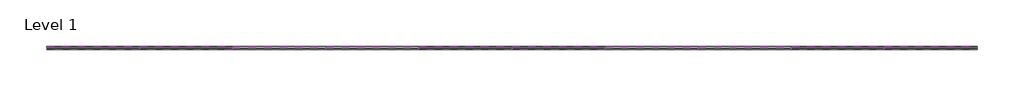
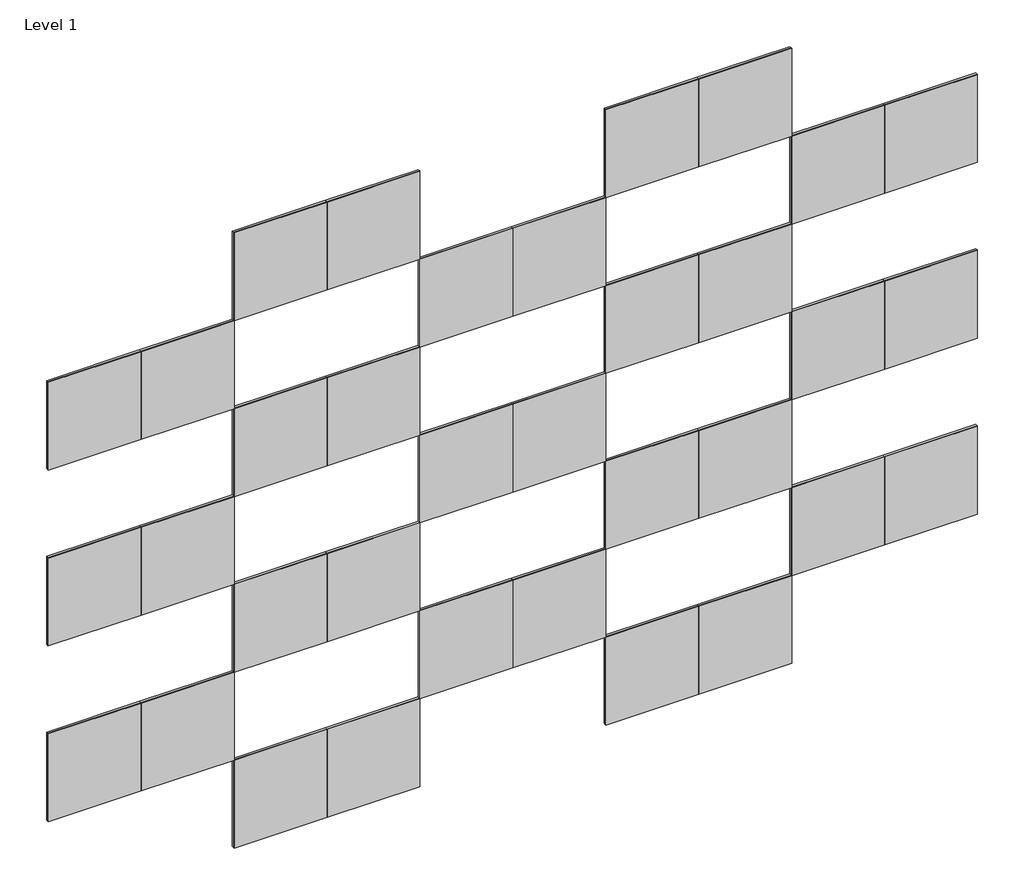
# One storey, incomplete: 34 proxies.
"""IFC4 building model written with IfcOpenShell, lengths in millimetres."""

from ifc_helpers import new_model, si_unit, origin, place, context, project, spatial, transform, mapped, element, save
from components import turn_c_flat_panel_6ed3f7a1

model = new_model("IFC4")

# Units and contexts
model_context = context("Model", 3, world=origin())
ifc_project = project(units=[si_unit("LENGTHUNIT", "METRE", prefix="MILLI")], contexts=[model_context])

# Site, building, storey
site = spatial("IfcSite", under=ifc_project)
building = spatial("IfcBuilding", under=site)
storey = spatial("IfcBuildingStorey", under=building, Name="Level 1", Elevation=0.0)

# Proxies
placement = place(None, origin())
turn_c_flat_panel_shape = turn_c_flat_panel_6ed3f7a1(model_context)
element("IfcBuildingElementProxy", 1, Name="FilzFelt_Turn : Turn C (Flat Panel)", ObjectType="FilzFelt_Turn : Turn C (Flat Panel)", at=placement, inside=storey, context=model_context, shape_type="MappedRepresentation", body=[
    mapped(turn_c_flat_panel_shape, transform((217.9908805, 2947.8458474, 2890.4), x_axis=(1.0, 0.0, 0.0), y_axis=(0.0, 0.0, 1.0), z_axis=(0.0, -1.0, 0.0))),
])
element("IfcBuildingElementProxy", 2, Name="FilzFelt_Turn : Turn C (Flat Panel)", ObjectType="FilzFelt_Turn : Turn C (Flat Panel)", at=placement, inside=storey, context=model_context, shape_type="MappedRepresentation", body=[
    mapped(turn_c_flat_panel_shape, transform((217.9908805, 2947.8458474, 2077.6), x_axis=(1.0, 0.0, 0.0), y_axis=(0.0, 0.0, 1.0), z_axis=(0.0, -1.0, 0.0))),
])
element("IfcBuildingElementProxy", 3, Name="FilzFelt_Turn : Turn C (Flat Panel)", ObjectType="FilzFelt_Turn : Turn C (Flat Panel)", at=placement, inside=storey, context=model_context, shape_type="MappedRepresentation", body=[
    mapped(turn_c_flat_panel_shape, transform((217.9908805, 2947.8458474, 1264.8), x_axis=(1.0, 0.0, 0.0), y_axis=(0.0, 0.0, 1.0), z_axis=(0.0, -1.0, 0.0))),
])
element("IfcBuildingElementProxy", 4, Name="FilzFelt_Turn : Turn C (Flat Panel)", ObjectType="FilzFelt_Turn : Turn C (Flat Panel)", at=placement, inside=storey, context=model_context, shape_type="MappedRepresentation", body=[
    mapped(turn_c_flat_panel_shape, transform((624.3908805, 2947.8458474, 2890.4), x_axis=(1.0, 0.0, 0.0), y_axis=(0.0, 0.0, 1.0), z_axis=(0.0, -1.0, 0.0))),
])
element("IfcBuildingElementProxy", 5, Name="FilzFelt_Turn : Turn C (Flat Panel)", ObjectType="FilzFelt_Turn : Turn C (Flat Panel)", at=placement, inside=storey, context=model_context, shape_type="MappedRepresentation", body=[
    mapped(turn_c_flat_panel_shape, transform((624.3908805, 2947.8458474, 2077.6), x_axis=(1.0, 0.0, 0.0), y_axis=(0.0, 0.0, 1.0), z_axis=(0.0, -1.0, 0.0))),
])
element("IfcBuildingElementProxy", 6, Name="FilzFelt_Turn : Turn C (Flat Panel)", ObjectType="FilzFelt_Turn : Turn C (Flat Panel)", at=placement, inside=storey, context=model_context, shape_type="MappedRepresentation", body=[
    mapped(turn_c_flat_panel_shape, transform((624.3908805, 2947.8458474, 1264.8), x_axis=(1.0, 0.0, 0.0), y_axis=(0.0, 0.0, 1.0), z_axis=(0.0, -1.0, 0.0))),
])
element("IfcBuildingElementProxy", 7, Name="FilzFelt_Turn : Turn C (Flat Panel)", ObjectType="FilzFelt_Turn : Turn C (Flat Panel)", at=placement, inside=storey, context=model_context, shape_type="MappedRepresentation", body=[
    mapped(turn_c_flat_panel_shape, transform((1030.7908805, 2947.8458474, 3296.8), x_axis=(1.0, 0.0, 0.0), y_axis=(0.0, 0.0, 1.0), z_axis=(0.0, -1.0, 0.0))),
])
element("IfcBuildingElementProxy", 8, Name="FilzFelt_Turn : Turn C (Flat Panel)", ObjectType="FilzFelt_Turn : Turn C (Flat Panel)", at=placement, inside=storey, context=model_context, shape_type="MappedRepresentation", body=[
    mapped(turn_c_flat_panel_shape, transform((1030.7908805, 2947.8458474, 2484.0), x_axis=(1.0, 0.0, 0.0), y_axis=(0.0, 0.0, 1.0), z_axis=(0.0, -1.0, 0.0))),
])
element("IfcBuildingElementProxy", 9, Name="FilzFelt_Turn : Turn C (Flat Panel)", ObjectType="FilzFelt_Turn : Turn C (Flat Panel)", at=placement, inside=storey, context=model_context, shape_type="MappedRepresentation", body=[
    mapped(turn_c_flat_panel_shape, transform((1030.7908805, 2947.8458474, 1671.2), x_axis=(1.0, 0.0, 0.0), y_axis=(0.0, 0.0, 1.0), z_axis=(0.0, -1.0, 0.0))),
])
element("IfcBuildingElementProxy", 10, Name="FilzFelt_Turn : Turn C (Flat Panel)", ObjectType="FilzFelt_Turn : Turn C (Flat Panel)", at=placement, inside=storey, context=model_context, shape_type="MappedRepresentation", body=[
    mapped(turn_c_flat_panel_shape, transform((1030.7908805, 2947.8458474, 858.4), x_axis=(1.0, 0.0, 0.0), y_axis=(0.0, 0.0, 1.0), z_axis=(0.0, -1.0, 0.0))),
])
element("IfcBuildingElementProxy", 11, Name="FilzFelt_Turn : Turn C (Flat Panel)", ObjectType="FilzFelt_Turn : Turn C (Flat Panel)", at=placement, inside=storey, context=model_context, shape_type="MappedRepresentation", body=[
    mapped(turn_c_flat_panel_shape, transform((1437.1908805, 2947.8458474, 3296.8), x_axis=(1.0, 0.0, 0.0), y_axis=(0.0, 0.0, 1.0), z_axis=(0.0, -1.0, 0.0))),
])
element("IfcBuildingElementProxy", 12, Name="FilzFelt_Turn : Turn C (Flat Panel)", ObjectType="FilzFelt_Turn : Turn C (Flat Panel)", at=placement, inside=storey, context=model_context, shape_type="MappedRepresentation", body=[
    mapped(turn_c_flat_panel_shape, transform((1437.1908805, 2947.8458474, 2484.0), x_axis=(1.0, 0.0, 0.0), y_axis=(0.0, 0.0, 1.0), z_axis=(0.0, -1.0, 0.0))),
])
element("IfcBuildingElementProxy", 13, Name="FilzFelt_Turn : Turn C (Flat Panel)", ObjectType="FilzFelt_Turn : Turn C (Flat Panel)", at=placement, inside=storey, context=model_context, shape_type="MappedRepresentation", body=[
    mapped(turn_c_flat_panel_shape, transform((1437.1908805, 2947.8458474, 1671.2), x_axis=(1.0, 0.0, 0.0), y_axis=(0.0, 0.0, 1.0), z_axis=(0.0, -1.0, 0.0))),
])
element("IfcBuildingElementProxy", 14, Name="FilzFelt_Turn : Turn C (Flat Panel)", ObjectType="FilzFelt_Turn : Turn C (Flat Panel)", at=placement, inside=storey, context=model_context, shape_type="MappedRepresentation", body=[
    mapped(turn_c_flat_panel_shape, transform((1437.1908805, 2947.8458474, 858.4), x_axis=(1.0, 0.0, 0.0), y_axis=(0.0, 0.0, 1.0), z_axis=(0.0, -1.0, 0.0))),
])
element("IfcBuildingElementProxy", 15, Name="FilzFelt_Turn : Turn C (Flat Panel)", ObjectType="FilzFelt_Turn : Turn C (Flat Panel)", at=placement, inside=storey, context=model_context, shape_type="MappedRepresentation", body=[
    mapped(turn_c_flat_panel_shape, transform((1843.5908805, 2947.8458474, 2890.4), x_axis=(1.0, 0.0, 0.0), y_axis=(0.0, 0.0, 1.0), z_axis=(0.0, -1.0, 0.0))),
])
element("IfcBuildingElementProxy", 16, Name="FilzFelt_Turn : Turn C (Flat Panel)", ObjectType="FilzFelt_Turn : Turn C (Flat Panel)", at=placement, inside=storey, context=model_context, shape_type="MappedRepresentation", body=[
    mapped(turn_c_flat_panel_shape, transform((1843.5908805, 2947.8458474, 2077.6), x_axis=(1.0, 0.0, 0.0), y_axis=(0.0, 0.0, 1.0), z_axis=(0.0, -1.0, 0.0))),
])
element("IfcBuildingElementProxy", 17, Name="FilzFelt_Turn : Turn C (Flat Panel)", ObjectType="FilzFelt_Turn : Turn C (Flat Panel)", at=placement, inside=storey, context=model_context, shape_type="MappedRepresentation", body=[
    mapped(turn_c_flat_panel_shape, transform((1843.5908805, 2947.8458474, 1264.8), x_axis=(1.0, 0.0, 0.0), y_axis=(0.0, 0.0, 1.0), z_axis=(0.0, -1.0, 0.0))),
])
element("IfcBuildingElementProxy", 18, Name="FilzFelt_Turn : Turn C (Flat Panel)", ObjectType="FilzFelt_Turn : Turn C (Flat Panel)", at=placement, inside=storey, context=model_context, shape_type="MappedRepresentation", body=[
    mapped(turn_c_flat_panel_shape, transform((2249.9908805, 2947.8458474, 2890.4), x_axis=(1.0, 0.0, 0.0), y_axis=(0.0, 0.0, 1.0), z_axis=(0.0, -1.0, 0.0))),
])
element("IfcBuildingElementProxy", 19, Name="FilzFelt_Turn : Turn C (Flat Panel)", ObjectType="FilzFelt_Turn : Turn C (Flat Panel)", at=placement, inside=storey, context=model_context, shape_type="MappedRepresentation", body=[
    mapped(turn_c_flat_panel_shape, transform((2249.9908805, 2947.8458474, 2077.6), x_axis=(1.0, 0.0, 0.0), y_axis=(0.0, 0.0, 1.0), z_axis=(0.0, -1.0, 0.0))),
])
element("IfcBuildingElementProxy", 20, Name="FilzFelt_Turn : Turn C (Flat Panel)", ObjectType="FilzFelt_Turn : Turn C (Flat Panel)", at=placement, inside=storey, context=model_context, shape_type="MappedRepresentation", body=[
    mapped(turn_c_flat_panel_shape, transform((2249.9908805, 2947.8458474, 1264.8), x_axis=(1.0, 0.0, 0.0), y_axis=(0.0, 0.0, 1.0), z_axis=(0.0, -1.0, 0.0))),
])
element("IfcBuildingElementProxy", 21, Name="FilzFelt_Turn : Turn C (Flat Panel)", ObjectType="FilzFelt_Turn : Turn C (Flat Panel)", at=placement, inside=storey, context=model_context, shape_type="MappedRepresentation", body=[
    mapped(turn_c_flat_panel_shape, transform((2656.3908805, 2947.8458474, 3296.8), x_axis=(1.0, 0.0, 0.0), y_axis=(0.0, 0.0, 1.0), z_axis=(0.0, -1.0, 0.0))),
])
element("IfcBuildingElementProxy", 22, Name="FilzFelt_Turn : Turn C (Flat Panel)", ObjectType="FilzFelt_Turn : Turn C (Flat Panel)", at=placement, inside=storey, context=model_context, shape_type="MappedRepresentation", body=[
    mapped(turn_c_flat_panel_shape, transform((2656.3908805, 2947.8458474, 2484.0), x_axis=(1.0, 0.0, 0.0), y_axis=(0.0, 0.0, 1.0), z_axis=(0.0, -1.0, 0.0))),
])
element("IfcBuildingElementProxy", 23, Name="FilzFelt_Turn : Turn C (Flat Panel)", ObjectType="FilzFelt_Turn : Turn C (Flat Panel)", at=placement, inside=storey, context=model_context, shape_type="MappedRepresentation", body=[
    mapped(turn_c_flat_panel_shape, transform((2656.3908805, 2947.8458474, 1671.2), x_axis=(1.0, 0.0, 0.0), y_axis=(0.0, 0.0, 1.0), z_axis=(0.0, -1.0, 0.0))),
])
element("IfcBuildingElementProxy", 24, Name="FilzFelt_Turn : Turn C (Flat Panel)", ObjectType="FilzFelt_Turn : Turn C (Flat Panel)", at=placement, inside=storey, context=model_context, shape_type="MappedRepresentation", body=[
    mapped(turn_c_flat_panel_shape, transform((2656.3908805, 2947.8458474, 858.4), x_axis=(1.0, 0.0, 0.0), y_axis=(0.0, 0.0, 1.0), z_axis=(0.0, -1.0, 0.0))),
])
element("IfcBuildingElementProxy", 25, Name="FilzFelt_Turn : Turn C (Flat Panel)", ObjectType="FilzFelt_Turn : Turn C (Flat Panel)", at=placement, inside=storey, context=model_context, shape_type="MappedRepresentation", body=[
    mapped(turn_c_flat_panel_shape, transform((3062.7908805, 2947.8458474, 3296.8), x_axis=(1.0, 0.0, 0.0), y_axis=(0.0, 0.0, 1.0), z_axis=(0.0, -1.0, 0.0))),
])
element("IfcBuildingElementProxy", 26, Name="FilzFelt_Turn : Turn C (Flat Panel)", ObjectType="FilzFelt_Turn : Turn C (Flat Panel)", at=placement, inside=storey, context=model_context, shape_type="MappedRepresentation", body=[
    mapped(turn_c_flat_panel_shape, transform((3062.7908805, 2947.8458474, 2484.0), x_axis=(1.0, 0.0, 0.0), y_axis=(0.0, 0.0, 1.0), z_axis=(0.0, -1.0, 0.0))),
])
element("IfcBuildingElementProxy", 27, Name="FilzFelt_Turn : Turn C (Flat Panel)", ObjectType="FilzFelt_Turn : Turn C (Flat Panel)", at=placement, inside=storey, context=model_context, shape_type="MappedRepresentation", body=[
    mapped(turn_c_flat_panel_shape, transform((3062.7908805, 2947.8458474, 1671.2), x_axis=(1.0, 0.0, 0.0), y_axis=(0.0, 0.0, 1.0), z_axis=(0.0, -1.0, 0.0))),
])
element("IfcBuildingElementProxy", 28, Name="FilzFelt_Turn : Turn C (Flat Panel)", ObjectType="FilzFelt_Turn : Turn C (Flat Panel)", at=placement, inside=storey, context=model_context, shape_type="MappedRepresentation", body=[
    mapped(turn_c_flat_panel_shape, transform((3062.7908805, 2947.8458474, 858.4), x_axis=(1.0, 0.0, 0.0), y_axis=(0.0, 0.0, 1.0), z_axis=(0.0, -1.0, 0.0))),
])
element("IfcBuildingElementProxy", 29, Name="FilzFelt_Turn : Turn C (Flat Panel)", ObjectType="FilzFelt_Turn : Turn C (Flat Panel)", at=placement, inside=storey, context=model_context, shape_type="MappedRepresentation", body=[
    mapped(turn_c_flat_panel_shape, transform((3469.1908805, 2947.8458474, 2890.4), x_axis=(1.0, 0.0, 0.0), y_axis=(0.0, 0.0, 1.0), z_axis=(0.0, -1.0, 0.0))),
])
element("IfcBuildingElementProxy", 30, Name="FilzFelt_Turn : Turn C (Flat Panel)", ObjectType="FilzFelt_Turn : Turn C (Flat Panel)", at=placement, inside=storey, context=model_context, shape_type="MappedRepresentation", body=[
    mapped(turn_c_flat_panel_shape, transform((3469.1908805, 2947.8458474, 2077.6), x_axis=(1.0, 0.0, 0.0), y_axis=(0.0, 0.0, 1.0), z_axis=(0.0, -1.0, 0.0))),
])
element("IfcBuildingElementProxy", 31, Name="FilzFelt_Turn : Turn C (Flat Panel)", ObjectType="FilzFelt_Turn : Turn C (Flat Panel)", at=placement, inside=storey, context=model_context, shape_type="MappedRepresentation", body=[
    mapped(turn_c_flat_panel_shape, transform((3469.1908805, 2947.8458474, 1264.8), x_axis=(1.0, 0.0, 0.0), y_axis=(0.0, 0.0, 1.0), z_axis=(0.0, -1.0, 0.0))),
])
element("IfcBuildingElementProxy", 32, Name="FilzFelt_Turn : Turn C (Flat Panel)", ObjectType="FilzFelt_Turn : Turn C (Flat Panel)", at=placement, inside=storey, context=model_context, shape_type="MappedRepresentation", body=[
    mapped(turn_c_flat_panel_shape, transform((3875.5908805, 2947.8458474, 2890.4), x_axis=(1.0, 0.0, 0.0), y_axis=(0.0, 0.0, 1.0), z_axis=(0.0, -1.0, 0.0))),
])
element("IfcBuildingElementProxy", 33, Name="FilzFelt_Turn : Turn C (Flat Panel)", ObjectType="FilzFelt_Turn : Turn C (Flat Panel)", at=placement, inside=storey, context=model_context, shape_type="MappedRepresentation", body=[
    mapped(turn_c_flat_panel_shape, transform((3875.5908805, 2947.8458474, 2077.6), x_axis=(1.0, 0.0, 0.0), y_axis=(0.0, 0.0, 1.0), z_axis=(0.0, -1.0, 0.0))),
])
element("IfcBuildingElementProxy", 34, Name="FilzFelt_Turn : Turn C (Flat Panel)", ObjectType="FilzFelt_Turn : Turn C (Flat Panel)", at=placement, inside=storey, context=model_context, shape_type="MappedRepresentation", body=[
    mapped(turn_c_flat_panel_shape, transform((3875.5908805, 2947.8458474, 1264.8), x_axis=(1.0, 0.0, 0.0), y_axis=(0.0, 0.0, 1.0), z_axis=(0.0, -1.0, 0.0))),
])

save(model, "model.ifc")
